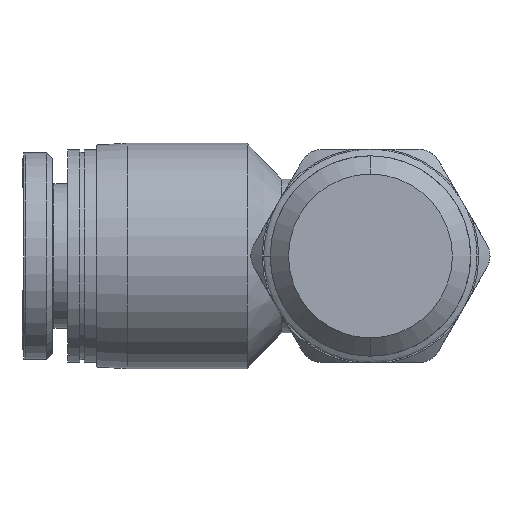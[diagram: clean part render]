
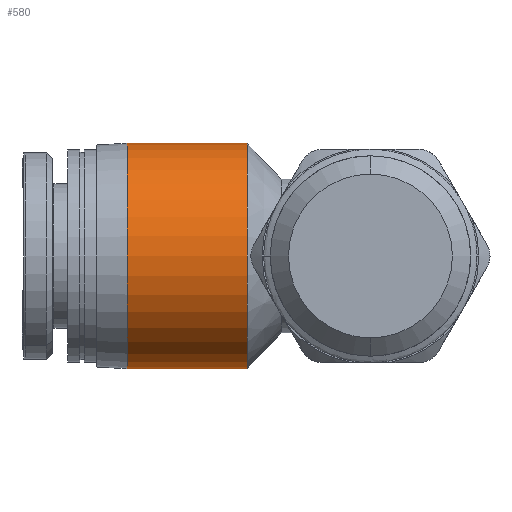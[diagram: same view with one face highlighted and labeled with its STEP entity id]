
A CAD part, front view. The second image highlights one B-rep face of the part: STEP entity #580.
In plain terms, the highlighted cylindrical face has radius 7.4 mm (diameter 14.8 mm), a partial arc.
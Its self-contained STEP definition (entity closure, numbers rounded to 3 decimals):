
#392 = EDGE_CURVE ( 'NONE', #6467, #8746, #4550, .T. ) ;
#413 = DIRECTION ( 'NONE',  ( 0., 0., 1. ) ) ;
#553 = ORIENTED_EDGE ( 'NONE', *, *, #392, .F. ) ;
#580 = ADVANCED_FACE ( 'NONE', ( #2961 ), #6133, .T. ) ;
#983 = DIRECTION ( 'NONE',  ( 0., 0., 1. ) ) ;
#1076 = CARTESIAN_POINT ( 'NONE',  ( 0., 0., 0. ) ) ;
#1234 = AXIS2_PLACEMENT_3D ( 'NONE', #1076, #5817, #413 ) ;
#1866 = ORIENTED_EDGE ( 'NONE', *, *, #3255, .T. ) ;
#2222 = CARTESIAN_POINT ( 'NONE',  ( -3.9, 0., 0. ) ) ;
#2366 = CARTESIAN_POINT ( 'NONE',  ( 7.876, 0., 0. ) ) ;
#2423 = CARTESIAN_POINT ( 'NONE',  ( 0., 0., 7.4 ) ) ;
#2490 = AXIS2_PLACEMENT_3D ( 'NONE', #2366, #5007, #983 ) ;
#2916 = CARTESIAN_POINT ( 'NONE',  ( 7.876, 0., -7.4 ) ) ;
#2924 = CARTESIAN_POINT ( 'NONE',  ( -3.9, 0., 7.4 ) ) ;
#2961 = FACE_OUTER_BOUND ( 'NONE', #6259, .T. ) ;
#3067 = CARTESIAN_POINT ( 'NONE',  ( 0., 0., -7.4 ) ) ;
#3246 = VERTEX_POINT ( 'NONE', #2423 ) ;
#3255 = EDGE_CURVE ( 'NONE', #6467, #6612, #3409, .T. ) ;
#3278 = VECTOR ( 'NONE', #4110, 1000. ) ;
#3409 = CIRCLE ( 'NONE', #2490, 7.4 ) ;
#3459 = EDGE_CURVE ( 'NONE', #8746, #3246, #7761, .T. ) ;
#4110 = DIRECTION ( 'NONE',  ( -1., 0., 0. ) ) ;
#4217 = DIRECTION ( 'NONE',  ( 0., 0., 1. ) ) ;
#4550 = LINE ( 'NONE', #8187, #3278 ) ;
#4569 = EDGE_CURVE ( 'NONE', #6612, #3246, #5466, .T. ) ;
#5007 = DIRECTION ( 'NONE',  ( -1., 0., 0. ) ) ;
#5466 = LINE ( 'NONE', #2924, #8689 ) ;
#5760 = DIRECTION ( 'NONE',  ( -1., 0., 0. ) ) ;
#5768 = CARTESIAN_POINT ( 'NONE',  ( 7.876, 0., 7.4 ) ) ;
#5817 = DIRECTION ( 'NONE',  ( -1., 0., 0. ) ) ;
#6133 = CYLINDRICAL_SURFACE ( 'NONE', #6383, 7.4 ) ;
#6249 = ORIENTED_EDGE ( 'NONE', *, *, #4569, .T. ) ;
#6259 = EDGE_LOOP ( 'NONE', ( #553, #1866, #6249, #8181 ) ) ;
#6326 = DIRECTION ( 'NONE',  ( -1., 0., 0. ) ) ;
#6383 = AXIS2_PLACEMENT_3D ( 'NONE', #2222, #5760, #4217 ) ;
#6467 = VERTEX_POINT ( 'NONE', #2916 ) ;
#6612 = VERTEX_POINT ( 'NONE', #5768 ) ;
#7761 = CIRCLE ( 'NONE', #1234, 7.4 ) ;
#8181 = ORIENTED_EDGE ( 'NONE', *, *, #3459, .F. ) ;
#8187 = CARTESIAN_POINT ( 'NONE',  ( -3.9, 0., -7.4 ) ) ;
#8689 = VECTOR ( 'NONE', #6326, 1000. ) ;
#8746 = VERTEX_POINT ( 'NONE', #3067 ) ;
